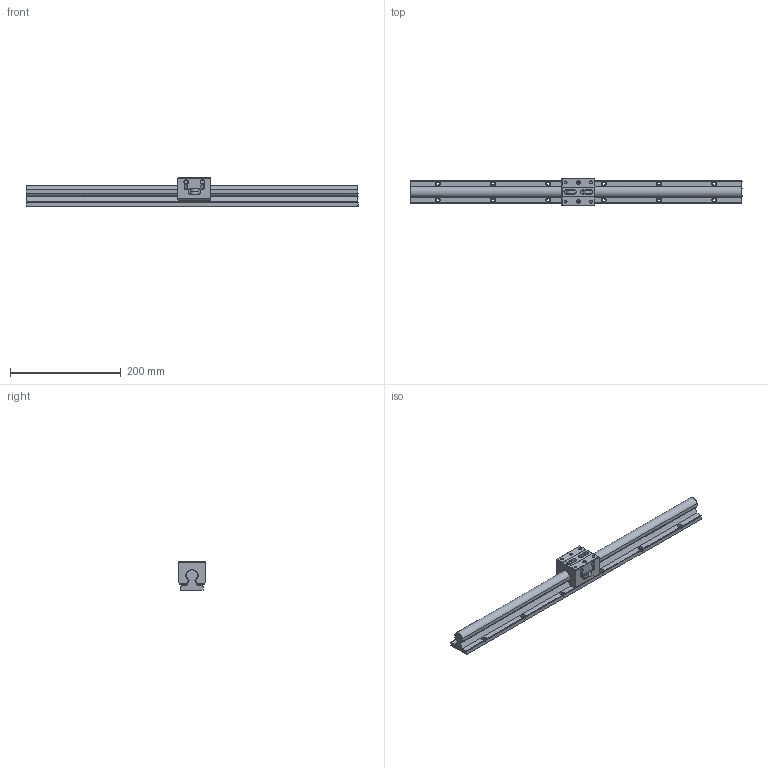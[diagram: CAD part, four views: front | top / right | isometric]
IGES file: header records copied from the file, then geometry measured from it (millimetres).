
Global section: file name: No Iges File Name specified; native system: AutoDesk Inventor R10; preprocessor: AutoDesk Inventor Iges Exporter R10; author: No Author specified; organization: No Organization specified; date: 20101222.155204; units: millimetre
Bounding box: 600 x 50 x 52 mm (x, y, z)
Surface area: 120584 mm2 (no closed solid volume)
Topology: 0 solids, 0 shells, 452 faces, 3458 edges, 3434 vertices
Faces by surface type: bspline 452
